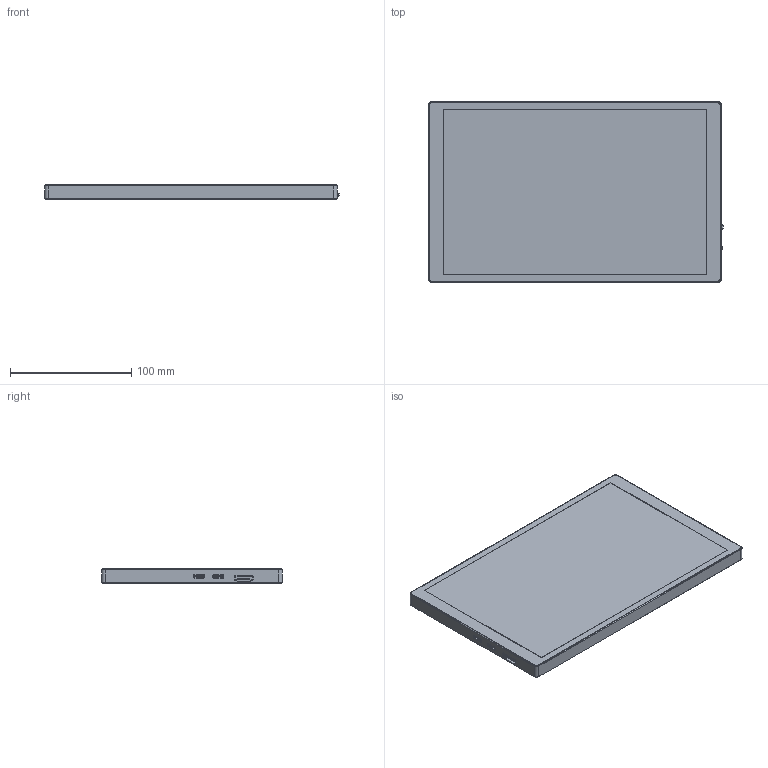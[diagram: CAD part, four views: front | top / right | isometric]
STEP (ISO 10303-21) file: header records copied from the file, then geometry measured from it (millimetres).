
FILE_DESCRIPTION((''),'2;1');
FILE_NAME('10_1HP-CAPLCD_MONITOR','2026-06-27T15:01:51',('ag'),(''),'CREO PARAMETRIC BY PTC INC, 2021063','CREO PARAMETRIC BY PTC INC, 2021063','');
FILE_SCHEMA(('CONFIG_CONTROL_DESIGN','SHAPE_APPEARANCE_LAYERS_GROUPS'));
Length unit declared in the file: millimetre
Products named in the file (1): 10_1HP-CAPLCD_MONITOR
Bounding box: 242.8 x 149 x 11.6 mm (x, y, z)
Volume: 414028.7 mm3; surface area: 84013.1 mm2
Topology: 1 solids, 1 shells, 411 faces, 970 edges, 638 vertices
Faces by surface type: cylinder 198, plane 195, cone 16, torus 2
Entity records: 12038 total; most frequent: DIRECTION 2208, CARTESIAN_POINT 2047, ORIENTED_EDGE 1940, EDGE_CURVE 970, AXIS2_PLACEMENT_3D 831, VERTEX_POINT 638, VECTOR 546, LINE 546
